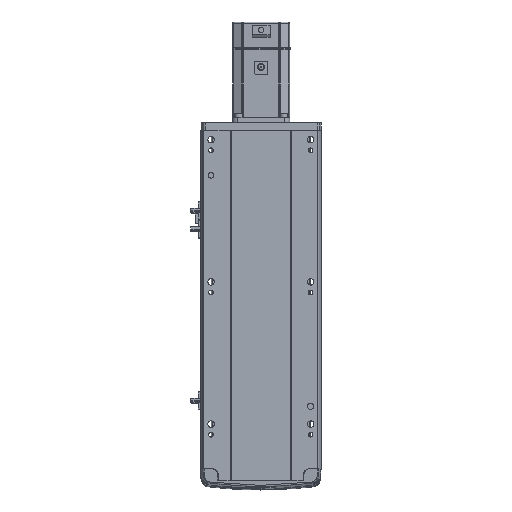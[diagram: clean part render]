
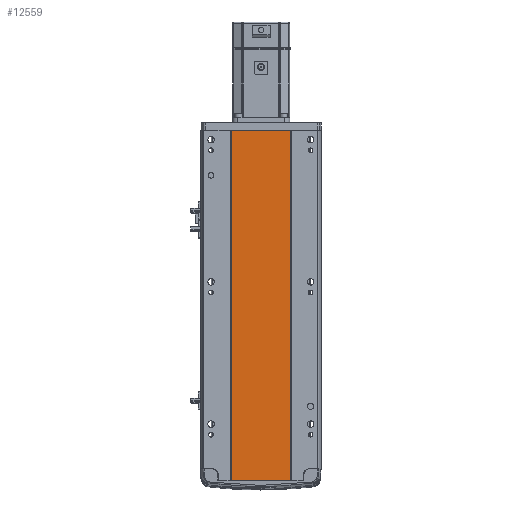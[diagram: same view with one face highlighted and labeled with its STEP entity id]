
A CAD part, front view. The second image highlights one B-rep face of the part: STEP entity #12559.
In plain terms, the highlighted planar face has unit normal (0, -1, 0).
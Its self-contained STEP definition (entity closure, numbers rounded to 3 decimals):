
#1840 = VERTEX_POINT ( 'NONE', #37406 ) ;
#5024 = VERTEX_POINT ( 'NONE', #30386 ) ;
#6503 = VECTOR ( 'NONE', #27379, 1000. ) ;
#6592 = VECTOR ( 'NONE', #18319, 1000. ) ;
#8985 = DIRECTION ( 'NONE',  ( 0., 0., -1. ) ) ;
#9044 = AXIS2_PLACEMENT_3D ( 'NONE', #17382, #20812, #21156 ) ;
#9150 = CARTESIAN_POINT ( 'NONE',  ( 41.793, 0.998, 493.5 ) ) ;
#9767 = ORIENTED_EDGE ( 'NONE', *, *, #47913, .F. ) ;
#10246 = CARTESIAN_POINT ( 'NONE',  ( -41.791, 1., 493.5 ) ) ;
#11613 = CARTESIAN_POINT ( 'NONE',  ( 0., 0.999, 493.5 ) ) ;
#12559 = ADVANCED_FACE ( 'NONE', ( #14964 ), #25072, .F. ) ;
#13125 = EDGE_LOOP ( 'NONE', ( #32317, #16492, #9767, #18113 ) ) ;
#14613 = VERTEX_POINT ( 'NONE', #31667 ) ;
#14633 = LINE ( 'NONE', #50390, #28742 ) ;
#14964 = FACE_OUTER_BOUND ( 'NONE', #13125, .T. ) ;
#16492 = ORIENTED_EDGE ( 'NONE', *, *, #41136, .F. ) ;
#17382 = CARTESIAN_POINT ( 'NONE',  ( 0., 0.999, 493.5 ) ) ;
#18113 = ORIENTED_EDGE ( 'NONE', *, *, #41929, .T. ) ;
#18319 = DIRECTION ( 'NONE',  ( 0., 0., -1. ) ) ;
#20812 = DIRECTION ( 'NONE',  ( 0., 1., 0. ) ) ;
#21156 = DIRECTION ( 'NONE',  ( -1., 0., 0. ) ) ;
#25072 = PLANE ( 'NONE',  #9044 ) ;
#27332 = LINE ( 'NONE', #9150, #48760 ) ;
#27340 = LINE ( 'NONE', #11613, #6503 ) ;
#27379 = DIRECTION ( 'NONE',  ( 1., 0., 0. ) ) ;
#28742 = VECTOR ( 'NONE', #39602, 1000. ) ;
#29035 = CARTESIAN_POINT ( 'NONE',  ( 41.793, 0.998, 0. ) ) ;
#30386 = CARTESIAN_POINT ( 'NONE',  ( -41.791, 1., 493.5 ) ) ;
#31667 = CARTESIAN_POINT ( 'NONE',  ( -41.791, 1., 0. ) ) ;
#32317 = ORIENTED_EDGE ( 'NONE', *, *, #39166, .T. ) ;
#33893 = VERTEX_POINT ( 'NONE', #29035 ) ;
#37406 = CARTESIAN_POINT ( 'NONE',  ( 41.793, 0.998, 493.5 ) ) ;
#38448 = LINE ( 'NONE', #10246, #6592 ) ;
#39166 = EDGE_CURVE ( 'NONE', #14613, #33893, #14633, .T. ) ;
#39602 = DIRECTION ( 'NONE',  ( 1., 0., 0. ) ) ;
#41136 = EDGE_CURVE ( 'NONE', #1840, #33893, #27332, .T. ) ;
#41929 = EDGE_CURVE ( 'NONE', #5024, #14613, #38448, .T. ) ;
#47913 = EDGE_CURVE ( 'NONE', #5024, #1840, #27340, .T. ) ;
#48760 = VECTOR ( 'NONE', #8985, 1000. ) ;
#50390 = CARTESIAN_POINT ( 'NONE',  ( 0., 0.999, 0. ) ) ;
